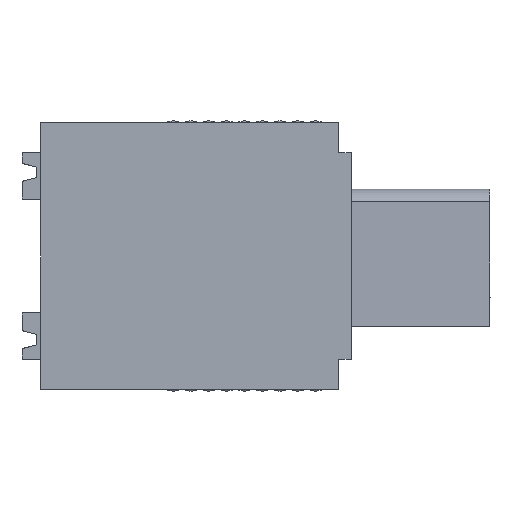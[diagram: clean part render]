
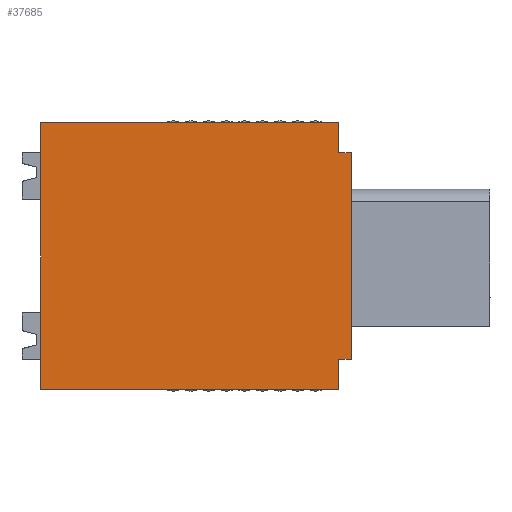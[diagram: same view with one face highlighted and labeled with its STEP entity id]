
A CAD part, left-side view. The second image highlights one B-rep face of the part: STEP entity #37685.
In plain terms, the highlighted planar face has unit normal (-1, 0, 0).
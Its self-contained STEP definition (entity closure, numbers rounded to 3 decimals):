
#2889=DIRECTION('',(0.,0.,1.));
#2890=VECTOR('',#2889,11.6);
#2891=CARTESIAN_POINT('',(3.3,7.8,-13.3));
#2892=LINE('',#2891,#2890);
#4765=DIRECTION('',(0.,1.,0.));
#4766=VECTOR('',#4765,0.7);
#4767=CARTESIAN_POINT('',(3.3,7.8,-1.7));
#4768=LINE('',#4767,#4766);
#4773=DIRECTION('',(0.,0.,1.));
#4774=VECTOR('',#4773,1.7);
#4775=CARTESIAN_POINT('',(3.3,8.5,-1.7));
#4776=LINE('',#4775,#4774);
#4803=DIRECTION('',(0.,1.,0.));
#4804=VECTOR('',#4803,16.75);
#4805=CARTESIAN_POINT('',(3.3,8.5,0.));
#4806=LINE('',#4805,#4804);
#7939=DIRECTION('',(0.,1.,0.));
#7940=VECTOR('',#7939,0.7);
#7941=CARTESIAN_POINT('',(3.3,7.8,-13.3));
#7942=LINE('',#7941,#7940);
#7943=DIRECTION('',(0.,0.,-1.));
#7944=VECTOR('',#7943,1.7);
#7945=CARTESIAN_POINT('',(3.3,8.5,-13.3));
#7946=LINE('',#7945,#7944);
#7947=DIRECTION('',(0.,1.,0.));
#7948=VECTOR('',#7947,16.75);
#7949=CARTESIAN_POINT('',(3.3,8.5,-15.));
#7950=LINE('',#7949,#7948);
#7951=DIRECTION('',(0.,0.,1.));
#7952=VECTOR('',#7951,15.);
#7953=CARTESIAN_POINT('',(3.3,25.25,-15.));
#7954=LINE('',#7953,#7952);
#19221=CARTESIAN_POINT('',(3.3,25.25,0.));
#19223=VERTEX_POINT('',#19221);
#19225=CARTESIAN_POINT('',(3.3,25.25,-15.));
#19226=VERTEX_POINT('',#19225);
#19291=CARTESIAN_POINT('',(3.3,7.8,-13.3));
#19292=CARTESIAN_POINT('',(3.3,8.5,-13.3));
#19293=VERTEX_POINT('',#19291);
#19294=VERTEX_POINT('',#19292);
#19295=CARTESIAN_POINT('',(3.3,7.8,-1.7));
#19296=VERTEX_POINT('',#19295);
#19297=CARTESIAN_POINT('',(3.3,8.5,-15.));
#19298=VERTEX_POINT('',#19297);
#19299=CARTESIAN_POINT('',(3.3,8.5,0.));
#19300=VERTEX_POINT('',#19299);
#19301=CARTESIAN_POINT('',(3.3,8.5,-1.7));
#19302=VERTEX_POINT('',#19301);
#37670=CARTESIAN_POINT('',(3.3,16.525,-7.5));
#37671=DIRECTION('',(1.,0.,0.));
#37672=DIRECTION('',(0.,-1.,0.));
#37673=AXIS2_PLACEMENT_3D('',#37670,#37671,#37672);
#37674=PLANE('',#37673);
#37675=ORIENTED_EDGE('',*,*,#29590,.F.);
#37676=ORIENTED_EDGE('',*,*,#29575,.T.);
#37677=ORIENTED_EDGE('',*,*,#29560,.T.);
#37678=ORIENTED_EDGE('',*,*,#25473,.T.);
#37679=ORIENTED_EDGE('',*,*,#25132,.T.);
#37680=ORIENTED_EDGE('',*,*,#32665,.F.);
#37681=ORIENTED_EDGE('',*,*,#32640,.F.);
#37682=ORIENTED_EDGE('',*,*,#32625,.F.);
#37683=EDGE_LOOP('',(#37675,#37676,#37677,#37678,#37679,#37680,#37681,#37682));
#37684=FACE_OUTER_BOUND('',#37683,.F.);
#37685=ADVANCED_FACE('',(#37684),#37674,.F.);
#25132=EDGE_CURVE('',#19226,#19223,#7954,.T.);
#25473=EDGE_CURVE('',#19298,#19226,#7950,.T.);
#29560=EDGE_CURVE('',#19294,#19298,#7946,.T.);
#29575=EDGE_CURVE('',#19293,#19294,#7942,.T.);
#29590=EDGE_CURVE('',#19293,#19296,#2892,.T.);
#32625=EDGE_CURVE('',#19296,#19302,#4768,.T.);
#32640=EDGE_CURVE('',#19302,#19300,#4776,.T.);
#32665=EDGE_CURVE('',#19300,#19223,#4806,.T.);
